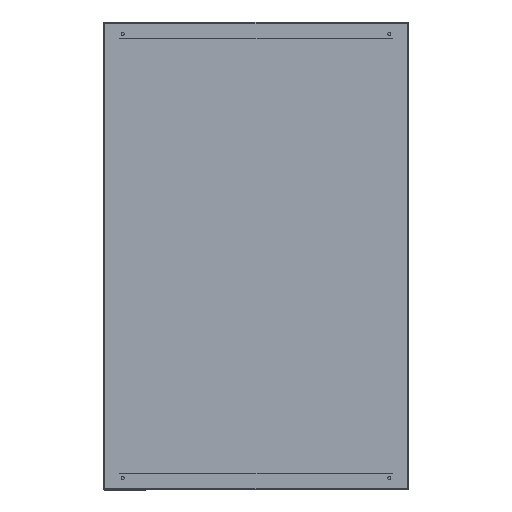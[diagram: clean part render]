
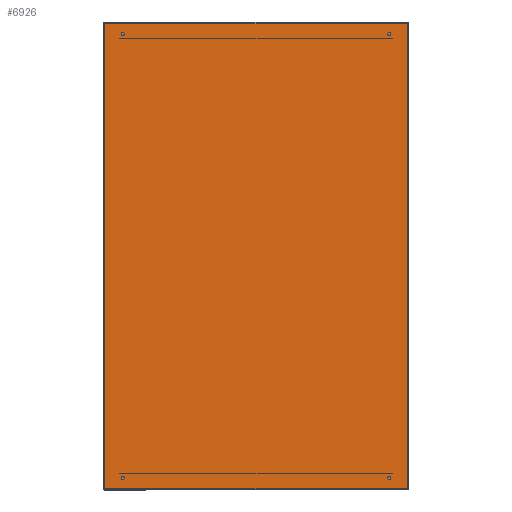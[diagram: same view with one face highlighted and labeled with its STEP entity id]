
A CAD part, front view. The second image highlights one B-rep face of the part: STEP entity #6926.
In plain terms, the highlighted planar face has unit normal (0, -1, 0).
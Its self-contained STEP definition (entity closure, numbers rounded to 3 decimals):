
#28 = DIRECTION ( 'NONE',  ( -1., 0., 0. ) ) ;
#47 = AXIS2_PLACEMENT_3D ( 'NONE', #1509, #643, #6660 ) ;
#472 = AXIS2_PLACEMENT_3D ( 'NONE', #4401, #2590, #28 ) ;
#617 = CARTESIAN_POINT ( 'NONE',  ( 323., 0., 497.2 ) ) ;
#632 = CIRCLE ( 'NONE', #7317, 3.25 ) ;
#643 = DIRECTION ( 'NONE',  ( 0., 1., 0. ) ) ;
#1118 = EDGE_LOOP ( 'NONE', ( #4948, #10403 ) ) ;
#1327 = CARTESIAN_POINT ( 'NONE',  ( 323., 0., -497.2 ) ) ;
#1380 = CARTESIAN_POINT ( 'NONE',  ( 285., 0., -475. ) ) ;
#1385 = EDGE_CURVE ( 'NONE', #9415, #5730, #9243, .T. ) ;
#1388 = DIRECTION ( 'NONE',  ( 0., 1., 0. ) ) ;
#1509 = CARTESIAN_POINT ( 'NONE',  ( -285., 0., -475. ) ) ;
#1590 = DIRECTION ( 'NONE',  ( 0., 0., 1. ) ) ;
#1650 = ORIENTED_EDGE ( 'NONE', *, *, #4637, .T. ) ;
#1671 = EDGE_CURVE ( 'NONE', #10974, #2793, #3961, .T. ) ;
#1692 = FACE_BOUND ( 'NONE', #1118, .T. ) ;
#1773 = DIRECTION ( 'NONE',  ( 0., 1., 0. ) ) ;
#1932 = CIRCLE ( 'NONE', #9104, 3.25 ) ;
#2034 = LINE ( 'NONE', #8772, #7005 ) ;
#2207 = LINE ( 'NONE', #10320, #3962 ) ;
#2342 = FACE_OUTER_BOUND ( 'NONE', #8645, .T. ) ;
#2486 = ORIENTED_EDGE ( 'NONE', *, *, #4464, .T. ) ;
#2590 = DIRECTION ( 'NONE',  ( 0., 1., 0. ) ) ;
#2793 = VERTEX_POINT ( 'NONE', #6572 ) ;
#2864 = DIRECTION ( 'NONE',  ( 0., 1., 0. ) ) ;
#2890 = CIRCLE ( 'NONE', #8251, 3.25 ) ;
#2894 = ORIENTED_EDGE ( 'NONE', *, *, #10609, .T. ) ;
#2896 = VERTEX_POINT ( 'NONE', #7683 ) ;
#3095 = DIRECTION ( 'NONE',  ( -1., 0., 0. ) ) ;
#3441 = VERTEX_POINT ( 'NONE', #7663 ) ;
#3522 = CARTESIAN_POINT ( 'NONE',  ( 285., 0., 475. ) ) ;
#3589 = DIRECTION ( 'NONE',  ( -1., 0., 0. ) ) ;
#3663 = CARTESIAN_POINT ( 'NONE',  ( 285., 0., -475. ) ) ;
#3853 = PLANE ( 'NONE',  #6101 ) ;
#3961 = CIRCLE ( 'NONE', #472, 3.25 ) ;
#3962 = VECTOR ( 'NONE', #1590, 1000. ) ;
#4007 = ORIENTED_EDGE ( 'NONE', *, *, #4280, .T. ) ;
#4073 = AXIS2_PLACEMENT_3D ( 'NONE', #10983, #1388, #9211 ) ;
#4187 = DIRECTION ( 'NONE',  ( 0., 1., 0. ) ) ;
#4263 = VERTEX_POINT ( 'NONE', #7591 ) ;
#4280 = EDGE_CURVE ( 'NONE', #3441, #5863, #9129, .T. ) ;
#4367 = FACE_BOUND ( 'NONE', #8809, .T. ) ;
#4380 = CARTESIAN_POINT ( 'NONE',  ( -323., 0., -497.2 ) ) ;
#4401 = CARTESIAN_POINT ( 'NONE',  ( 285., 0., 475. ) ) ;
#4464 = EDGE_CURVE ( 'NONE', #5863, #3441, #2890, .T. ) ;
#4637 = EDGE_CURVE ( 'NONE', #11165, #9415, #5436, .T. ) ;
#4714 = AXIS2_PLACEMENT_3D ( 'NONE', #3663, #7283, #6306 ) ;
#4744 = EDGE_CURVE ( 'NONE', #10735, #2896, #7600, .T. ) ;
#4843 = EDGE_LOOP ( 'NONE', ( #2486, #4007 ) ) ;
#4948 = ORIENTED_EDGE ( 'NONE', *, *, #6136, .T. ) ;
#5030 = VECTOR ( 'NONE', #9913, 1000. ) ;
#5140 = CARTESIAN_POINT ( 'NONE',  ( 323., 0., -497.2 ) ) ;
#5159 = EDGE_CURVE ( 'NONE', #4263, #6133, #1932, .T. ) ;
#5259 = DIRECTION ( 'NONE',  ( -1., 0., 0. ) ) ;
#5351 = DIRECTION ( 'NONE',  ( 1., 0., 0. ) ) ;
#5436 = LINE ( 'NONE', #6517, #5030 ) ;
#5730 = VERTEX_POINT ( 'NONE', #617 ) ;
#5863 = VERTEX_POINT ( 'NONE', #10449 ) ;
#5881 = CIRCLE ( 'NONE', #4073, 3.25 ) ;
#6101 = AXIS2_PLACEMENT_3D ( 'NONE', #9916, #8991, #3095 ) ;
#6133 = VERTEX_POINT ( 'NONE', #6438 ) ;
#6136 = EDGE_CURVE ( 'NONE', #2896, #10735, #5881, .T. ) ;
#6206 = CARTESIAN_POINT ( 'NONE',  ( -288.25, 0., -475. ) ) ;
#6306 = DIRECTION ( 'NONE',  ( -1., 0., 0. ) ) ;
#6398 = ORIENTED_EDGE ( 'NONE', *, *, #1671, .T. ) ;
#6438 = CARTESIAN_POINT ( 'NONE',  ( 281.75, 0., -475. ) ) ;
#6517 = CARTESIAN_POINT ( 'NONE',  ( -323., 0., -497.2 ) ) ;
#6572 = CARTESIAN_POINT ( 'NONE',  ( 281.75, 0., 475. ) ) ;
#6611 = CARTESIAN_POINT ( 'NONE',  ( 288.25, 0., 475. ) ) ;
#6660 = DIRECTION ( 'NONE',  ( 1., 0., 0. ) ) ;
#6926 = ADVANCED_FACE ( 'NONE', ( #2342, #1692, #10839, #10303, #4367 ), #3853, .T. ) ;
#7005 = VECTOR ( 'NONE', #3589, 1000. ) ;
#7283 = DIRECTION ( 'NONE',  ( 0., 1., 0. ) ) ;
#7317 = AXIS2_PLACEMENT_3D ( 'NONE', #3522, #1773, #5259 ) ;
#7450 = ORIENTED_EDGE ( 'NONE', *, *, #5159, .T. ) ;
#7591 = CARTESIAN_POINT ( 'NONE',  ( 288.25, 0., -475. ) ) ;
#7600 = CIRCLE ( 'NONE', #47, 3.25 ) ;
#7663 = CARTESIAN_POINT ( 'NONE',  ( -288.25, 0., 475. ) ) ;
#7683 = CARTESIAN_POINT ( 'NONE',  ( -281.75, 0., -475. ) ) ;
#7711 = CARTESIAN_POINT ( 'NONE',  ( -285., 0., 475. ) ) ;
#7727 = EDGE_CURVE ( 'NONE', #6133, #4263, #10409, .T. ) ;
#7914 = ORIENTED_EDGE ( 'NONE', *, *, #9950, .T. ) ;
#7917 = VERTEX_POINT ( 'NONE', #9028 ) ;
#8081 = EDGE_LOOP ( 'NONE', ( #2894, #6398 ) ) ;
#8205 = ORIENTED_EDGE ( 'NONE', *, *, #7727, .T. ) ;
#8251 = AXIS2_PLACEMENT_3D ( 'NONE', #8913, #2864, #5351 ) ;
#8284 = DIRECTION ( 'NONE',  ( -1., 0., 0. ) ) ;
#8645 = EDGE_LOOP ( 'NONE', ( #1650, #8755, #7914, #10892 ) ) ;
#8755 = ORIENTED_EDGE ( 'NONE', *, *, #1385, .T. ) ;
#8772 = CARTESIAN_POINT ( 'NONE',  ( 323., 0., 497.2 ) ) ;
#8775 = AXIS2_PLACEMENT_3D ( 'NONE', #7711, #4187, #11033 ) ;
#8809 = EDGE_LOOP ( 'NONE', ( #8205, #7450 ) ) ;
#8834 = EDGE_CURVE ( 'NONE', #11165, #7917, #2207, .T. ) ;
#8913 = CARTESIAN_POINT ( 'NONE',  ( -285., 0., 475. ) ) ;
#8971 = VECTOR ( 'NONE', #8996, 1000. ) ;
#8991 = DIRECTION ( 'NONE',  ( 0., -1., 0. ) ) ;
#8996 = DIRECTION ( 'NONE',  ( 0., 0., 1. ) ) ;
#9028 = CARTESIAN_POINT ( 'NONE',  ( -323., 0., 497.2 ) ) ;
#9104 = AXIS2_PLACEMENT_3D ( 'NONE', #1380, #9165, #8284 ) ;
#9129 = CIRCLE ( 'NONE', #8775, 3.25 ) ;
#9165 = DIRECTION ( 'NONE',  ( 0., 1., 0. ) ) ;
#9211 = DIRECTION ( 'NONE',  ( 1., 0., 0. ) ) ;
#9243 = LINE ( 'NONE', #1327, #8971 ) ;
#9415 = VERTEX_POINT ( 'NONE', #5140 ) ;
#9913 = DIRECTION ( 'NONE',  ( 1., 0., 0. ) ) ;
#9916 = CARTESIAN_POINT ( 'NONE',  ( -323., 0., -499.2 ) ) ;
#9950 = EDGE_CURVE ( 'NONE', #5730, #7917, #2034, .T. ) ;
#10303 = FACE_BOUND ( 'NONE', #8081, .T. ) ;
#10320 = CARTESIAN_POINT ( 'NONE',  ( -323., 0., -497.2 ) ) ;
#10403 = ORIENTED_EDGE ( 'NONE', *, *, #4744, .T. ) ;
#10409 = CIRCLE ( 'NONE', #4714, 3.25 ) ;
#10449 = CARTESIAN_POINT ( 'NONE',  ( -281.75, 0., 475. ) ) ;
#10609 = EDGE_CURVE ( 'NONE', #2793, #10974, #632, .T. ) ;
#10735 = VERTEX_POINT ( 'NONE', #6206 ) ;
#10839 = FACE_BOUND ( 'NONE', #4843, .T. ) ;
#10892 = ORIENTED_EDGE ( 'NONE', *, *, #8834, .F. ) ;
#10974 = VERTEX_POINT ( 'NONE', #6611 ) ;
#10983 = CARTESIAN_POINT ( 'NONE',  ( -285., 0., -475. ) ) ;
#11033 = DIRECTION ( 'NONE',  ( 1., 0., 0. ) ) ;
#11165 = VERTEX_POINT ( 'NONE', #4380 ) ;
